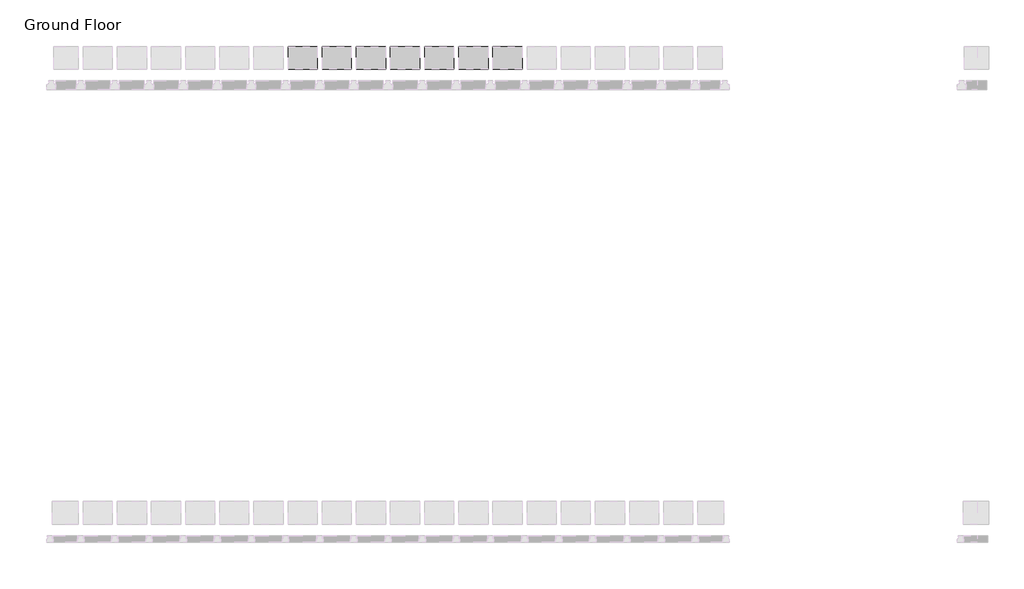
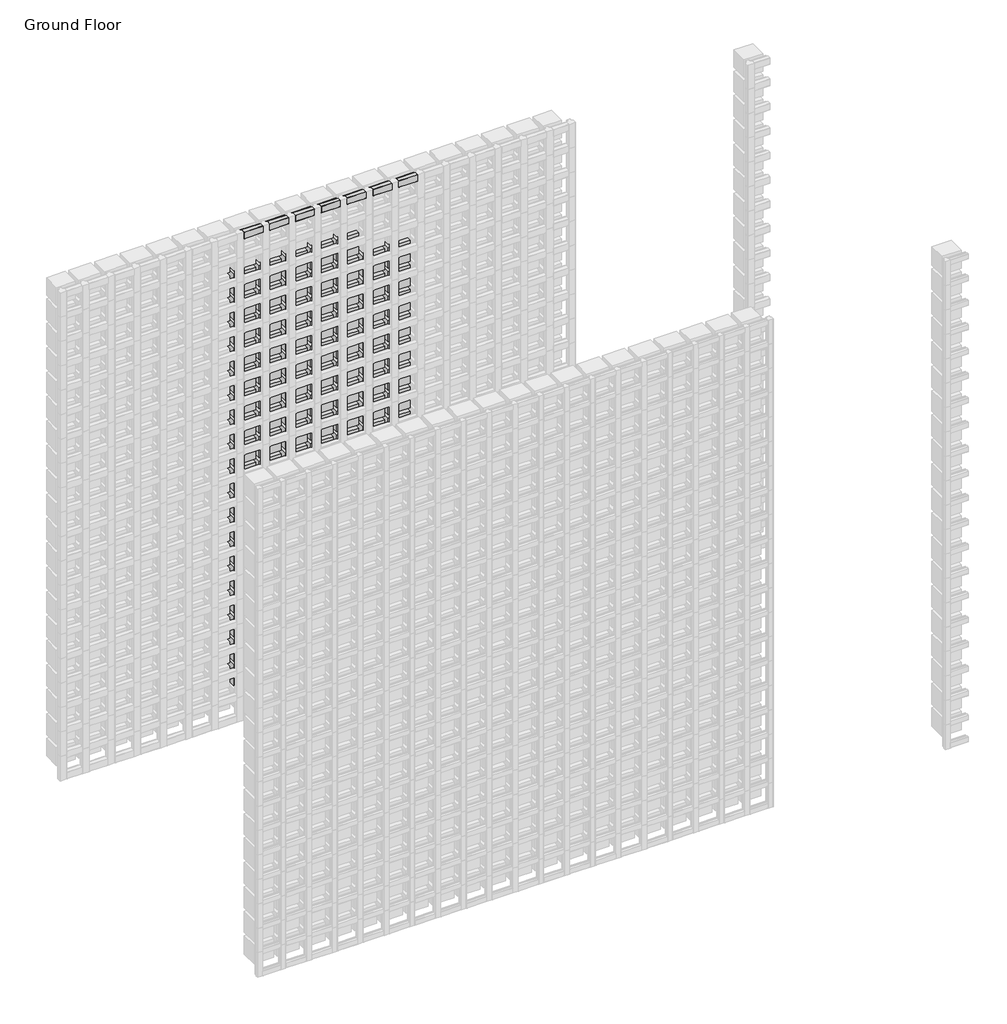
# One storey, part 112 of 350: 120 plates, 19 members.
"""IFC4 building model written with IfcOpenShell, lengths in millimetres."""

from ifc_helpers import new_model, si_unit, origin, place, context, project, spatial, transform, mapped, element, save
from components import rectangular_mullion_84e0df2e, rectangular_mullion_dacc5c26, rectangular_mullion_71680797, empty_system_panel_empty_5a3607ba, empty_system_panel_empty_5e80e148

model = new_model("IFC4")

# Units and contexts
model_context = context("Model", 3, world=origin())
ifc_project = project(units=[si_unit("LENGTHUNIT", "METRE", prefix="MILLI")], contexts=[model_context])

# Site, building, storey
site = spatial("IfcSite", under=ifc_project)
building = spatial("IfcBuilding", under=site)
storey = spatial("IfcBuildingStorey", under=building, Name="Ground Floor", Elevation=0.0)

# Members
placement = place(None, origin())
rectangular_mullion_shape = rectangular_mullion_84e0df2e(model_context)
element("IfcMember", 1, ObjectType="Rectangular Mullion : Batten_Timber_Modinex_Austratus_Grid_Fin_40x40_AlaskanYellowCedar", at=placement, inside=storey, context=model_context, shape_type="MappedRepresentation", body=[
    mapped(rectangular_mullion_shape, transform((3116.4361642, 44968.2978302, 0.0), x_axis=(1.0, 0.0, 0.0), y_axis=(0.0, -1.0, 0.0), z_axis=(0.0, 0.0, -1.0))),
])
element("IfcMember", 2, ObjectType="Rectangular Mullion : Batten_Timber_Modinex_Austratus_Grid_Fin_40x40_AlaskanYellowCedar", at=placement, inside=storey, context=model_context, shape_type="MappedRepresentation", body=[
    mapped(rectangular_mullion_shape, transform((3266.4361642, 44968.2978302, 0.0), x_axis=(1.0, 0.0, 0.0), y_axis=(0.0, -1.0, 0.0), z_axis=(0.0, 0.0, -1.0))),
])
element("IfcMember", 3, ObjectType="Rectangular Mullion : Batten_Timber_Modinex_Austratus_Grid_Fin_40x40_AlaskanYellowCedar", at=placement, inside=storey, context=model_context, shape_type="MappedRepresentation", body=[
    mapped(rectangular_mullion_shape, transform((3416.4361642, 44968.2978302, 0.0), x_axis=(1.0, 0.0, 0.0), y_axis=(0.0, -1.0, 0.0), z_axis=(0.0, 0.0, -1.0))),
])
element("IfcMember", 4, ObjectType="Rectangular Mullion : Batten_Timber_Modinex_Austratus_Grid_Fin_40x40_AlaskanYellowCedar", at=placement, inside=storey, context=model_context, shape_type="MappedRepresentation", body=[
    mapped(rectangular_mullion_shape, transform((3566.4361642, 44968.2978302, 0.0), x_axis=(1.0, 0.0, 0.0), y_axis=(0.0, -1.0, 0.0), z_axis=(0.0, 0.0, -1.0))),
])
element("IfcMember", 5, ObjectType="Rectangular Mullion : Batten_Timber_Modinex_Austratus_Grid_Fin_40x40_AlaskanYellowCedar", at=placement, inside=storey, context=model_context, shape_type="MappedRepresentation", body=[
    mapped(rectangular_mullion_shape, transform((3716.4361642, 44968.2978302, 0.0), x_axis=(1.0, 0.0, 0.0), y_axis=(0.0, -1.0, 0.0), z_axis=(0.0, 0.0, -1.0))),
])
element("IfcMember", 6, ObjectType="Rectangular Mullion : Batten_Timber_Modinex_Austratus_Grid_Fin_40x40_AlaskanYellowCedar", at=placement, inside=storey, context=model_context, shape_type="MappedRepresentation", body=[
    mapped(rectangular_mullion_shape, transform((3866.4361642, 44968.2978302, 0.0), x_axis=(1.0, 0.0, 0.0), y_axis=(0.0, -1.0, 0.0), z_axis=(0.0, 0.0, -1.0))),
])
rectangular_mullion_2_shape = rectangular_mullion_dacc5c26(model_context)
element("IfcMember", 7, ObjectType="Rectangular Mullion : Batten_Timber_Modinex_Austratus_Grid_Fin_40x40_AlaskanYellowCedar", at=placement, inside=storey, context=model_context, shape_type="MappedRepresentation", body=[
    mapped(rectangular_mullion_2_shape, transform((3096.4361642, 44968.2978302, 3000.0), x_axis=(0.0, 0.0, 1.0), y_axis=(0.0, -1.0, 0.0), z_axis=(1.0, 0.0, 0.0))),
])
element("IfcMember", 8, ObjectType="Rectangular Mullion : Batten_Timber_Modinex_Austratus_Grid_Fin_40x40_AlaskanYellowCedar", at=placement, inside=storey, context=model_context, shape_type="MappedRepresentation", body=[
    mapped(rectangular_mullion_2_shape, transform((3246.4361642, 44968.2978302, 3000.0), x_axis=(0.0, 0.0, 1.0), y_axis=(0.0, -1.0, 0.0), z_axis=(1.0, 0.0, 0.0))),
])
element("IfcMember", 9, ObjectType="Rectangular Mullion : Batten_Timber_Modinex_Austratus_Grid_Fin_40x40_AlaskanYellowCedar", at=placement, inside=storey, context=model_context, shape_type="MappedRepresentation", body=[
    mapped(rectangular_mullion_2_shape, transform((3396.4361642, 44968.2978302, 3000.0), x_axis=(0.0, 0.0, 1.0), y_axis=(0.0, -1.0, 0.0), z_axis=(1.0, 0.0, 0.0))),
])
element("IfcMember", 10, ObjectType="Rectangular Mullion : Batten_Timber_Modinex_Austratus_Grid_Fin_40x40_AlaskanYellowCedar", at=placement, inside=storey, context=model_context, shape_type="MappedRepresentation", body=[
    mapped(rectangular_mullion_2_shape, transform((3546.4361642, 44968.2978302, 3000.0), x_axis=(0.0, 0.0, 1.0), y_axis=(0.0, -1.0, 0.0), z_axis=(1.0, 0.0, 0.0))),
])
element("IfcMember", 11, ObjectType="Rectangular Mullion : Batten_Timber_Modinex_Austratus_Grid_Fin_40x40_AlaskanYellowCedar", at=placement, inside=storey, context=model_context, shape_type="MappedRepresentation", body=[
    mapped(rectangular_mullion_2_shape, transform((3696.4361642, 44968.2978302, 3000.0), x_axis=(0.0, 0.0, 1.0), y_axis=(0.0, -1.0, 0.0), z_axis=(1.0, 0.0, 0.0))),
])
element("IfcMember", 12, ObjectType="Rectangular Mullion : Batten_Timber_Modinex_Austratus_Grid_Fin_40x40_AlaskanYellowCedar", at=placement, inside=storey, context=model_context, shape_type="MappedRepresentation", body=[
    mapped(rectangular_mullion_2_shape, transform((3846.4361642, 44968.2978302, 3000.0), x_axis=(0.0, 0.0, 1.0), y_axis=(0.0, -1.0, 0.0), z_axis=(1.0, 0.0, 0.0))),
])
element("IfcMember", 13, ObjectType="Rectangular Mullion : Batten_Timber_Modinex_Austratus_Grid_Fin_40x40_AlaskanYellowCedar", at=placement, inside=storey, context=model_context, shape_type="MappedRepresentation", body=[
    mapped(rectangular_mullion_2_shape, transform((3996.4361642, 44968.2978302, 3000.0), x_axis=(0.0, 0.0, 1.0), y_axis=(0.0, -1.0, 0.0), z_axis=(1.0, 0.0, 0.0))),
])
rectangular_mullion_3_shape = rectangular_mullion_71680797(model_context)
element("IfcMember", 14, ObjectType="Rectangular Mullion : Batten_Timber_Modinex_Austratus_Grid_Fin_40x40_AlaskanYellowCedar", at=placement, inside=storey, context=model_context, shape_type="MappedRepresentation", body=[
    mapped(rectangular_mullion_3_shape, transform((3136.4361642, 44968.2978302, 0.0), x_axis=(0.0, 0.0, -1.0), y_axis=(0.0, -1.0, 0.0), z_axis=(-1.0, 0.0, 0.0))),
])
element("IfcMember", 15, ObjectType="Rectangular Mullion : Batten_Timber_Modinex_Austratus_Grid_Fin_40x40_AlaskanYellowCedar", at=placement, inside=storey, context=model_context, shape_type="MappedRepresentation", body=[
    mapped(rectangular_mullion_3_shape, transform((3286.4361642, 44968.2978302, 0.0), x_axis=(0.0, 0.0, -1.0), y_axis=(0.0, -1.0, 0.0), z_axis=(-1.0, 0.0, 0.0))),
])
element("IfcMember", 16, ObjectType="Rectangular Mullion : Batten_Timber_Modinex_Austratus_Grid_Fin_40x40_AlaskanYellowCedar", at=placement, inside=storey, context=model_context, shape_type="MappedRepresentation", body=[
    mapped(rectangular_mullion_3_shape, transform((3436.4361642, 44968.2978302, 0.0), x_axis=(0.0, 0.0, -1.0), y_axis=(0.0, -1.0, 0.0), z_axis=(-1.0, 0.0, 0.0))),
])
element("IfcMember", 17, ObjectType="Rectangular Mullion : Batten_Timber_Modinex_Austratus_Grid_Fin_40x40_AlaskanYellowCedar", at=placement, inside=storey, context=model_context, shape_type="MappedRepresentation", body=[
    mapped(rectangular_mullion_3_shape, transform((3586.4361642, 44968.2978302, 0.0), x_axis=(0.0, 0.0, -1.0), y_axis=(0.0, -1.0, 0.0), z_axis=(-1.0, 0.0, 0.0))),
])
element("IfcMember", 18, ObjectType="Rectangular Mullion : Batten_Timber_Modinex_Austratus_Grid_Fin_40x40_AlaskanYellowCedar", at=placement, inside=storey, context=model_context, shape_type="MappedRepresentation", body=[
    mapped(rectangular_mullion_3_shape, transform((3736.4361642, 44968.2978302, 0.0), x_axis=(0.0, 0.0, -1.0), y_axis=(0.0, -1.0, 0.0), z_axis=(-1.0, 0.0, 0.0))),
])
element("IfcMember", 19, ObjectType="Rectangular Mullion : Batten_Timber_Modinex_Austratus_Grid_Fin_40x40_AlaskanYellowCedar", at=placement, inside=storey, context=model_context, shape_type="MappedRepresentation", body=[
    mapped(rectangular_mullion_3_shape, transform((3886.4361642, 44968.2978302, 0.0), x_axis=(0.0, 0.0, -1.0), y_axis=(0.0, -1.0, 0.0), z_axis=(-1.0, 0.0, 0.0))),
])

# Plates
empty_system_panel_empty_shape = empty_system_panel_empty_5a3607ba(model_context)
element("IfcPlate", 20, ObjectType="Empty System Panel : Empty", at=placement, inside=storey, context=model_context, shape_type="MappedRepresentation", body=[
    mapped(empty_system_panel_empty_shape, transform((3041.4361642, 44968.2978302, 160.812195), x_axis=(1.0, 0.0, 0.0), y_axis=(0.0, 1.0, 0.0), z_axis=(0.0, 0.0, 1.0))),
])
element("IfcPlate", 21, ObjectType="Empty System Panel : Empty", at=placement, inside=storey, context=model_context, shape_type="MappedRepresentation", body=[
    mapped(empty_system_panel_empty_shape, transform((3191.4361642, 44968.2978302, 160.812195), x_axis=(1.0, 0.0, 0.0), y_axis=(0.0, 1.0, 0.0), z_axis=(0.0, 0.0, 1.0))),
])
element("IfcPlate", 22, ObjectType="Empty System Panel : Empty", at=placement, inside=storey, context=model_context, shape_type="MappedRepresentation", body=[
    mapped(empty_system_panel_empty_shape, transform((3341.4361642, 44968.2978302, 160.812195), x_axis=(1.0, 0.0, 0.0), y_axis=(0.0, 1.0, 0.0), z_axis=(0.0, 0.0, 1.0))),
])
element("IfcPlate", 23, ObjectType="Empty System Panel : Empty", at=placement, inside=storey, context=model_context, shape_type="MappedRepresentation", body=[
    mapped(empty_system_panel_empty_shape, transform((3491.4361642, 44968.2978302, 160.812195), x_axis=(1.0, 0.0, 0.0), y_axis=(0.0, 1.0, 0.0), z_axis=(0.0, 0.0, 1.0))),
])
element("IfcPlate", 24, ObjectType="Empty System Panel : Empty", at=placement, inside=storey, context=model_context, shape_type="MappedRepresentation", body=[
    mapped(empty_system_panel_empty_shape, transform((3641.4361642, 44968.2978302, 160.812195), x_axis=(1.0, 0.0, 0.0), y_axis=(0.0, 1.0, 0.0), z_axis=(0.0, 0.0, 1.0))),
])
element("IfcPlate", 25, ObjectType="Empty System Panel : Empty", at=placement, inside=storey, context=model_context, shape_type="MappedRepresentation", body=[
    mapped(empty_system_panel_empty_shape, transform((3791.4361642, 44968.2978302, 160.812195), x_axis=(1.0, 0.0, 0.0), y_axis=(0.0, 1.0, 0.0), z_axis=(0.0, 0.0, 1.0))),
])
element("IfcPlate", 26, ObjectType="Empty System Panel : Empty", at=placement, inside=storey, context=model_context, shape_type="MappedRepresentation", body=[
    mapped(empty_system_panel_empty_shape, transform((3941.4361642, 44968.2978302, 160.812195), x_axis=(1.0, 0.0, 0.0), y_axis=(0.0, 1.0, 0.0), z_axis=(0.0, 0.0, 1.0))),
])
element("IfcPlate", 27, ObjectType="Empty System Panel : Empty", at=placement, inside=storey, context=model_context, shape_type="MappedRepresentation", body=[
    mapped(empty_system_panel_empty_shape, transform((3041.4361642, 44968.2978302, 310.812195), x_axis=(1.0, 0.0, 0.0), y_axis=(0.0, 1.0, 0.0), z_axis=(0.0, 0.0, 1.0))),
])
element("IfcPlate", 28, ObjectType="Empty System Panel : Empty", at=placement, inside=storey, context=model_context, shape_type="MappedRepresentation", body=[
    mapped(empty_system_panel_empty_shape, transform((3191.4361642, 44968.2978302, 310.812195), x_axis=(1.0, 0.0, 0.0), y_axis=(0.0, 1.0, 0.0), z_axis=(0.0, 0.0, 1.0))),
])
element("IfcPlate", 29, ObjectType="Empty System Panel : Empty", at=placement, inside=storey, context=model_context, shape_type="MappedRepresentation", body=[
    mapped(empty_system_panel_empty_shape, transform((3341.4361642, 44968.2978302, 310.812195), x_axis=(1.0, 0.0, 0.0), y_axis=(0.0, 1.0, 0.0), z_axis=(0.0, 0.0, 1.0))),
])
element("IfcPlate", 30, ObjectType="Empty System Panel : Empty", at=placement, inside=storey, context=model_context, shape_type="MappedRepresentation", body=[
    mapped(empty_system_panel_empty_shape, transform((3491.4361642, 44968.2978302, 310.812195), x_axis=(1.0, 0.0, 0.0), y_axis=(0.0, 1.0, 0.0), z_axis=(0.0, 0.0, 1.0))),
])
element("IfcPlate", 31, ObjectType="Empty System Panel : Empty", at=placement, inside=storey, context=model_context, shape_type="MappedRepresentation", body=[
    mapped(empty_system_panel_empty_shape, transform((3641.4361642, 44968.2978302, 310.812195), x_axis=(1.0, 0.0, 0.0), y_axis=(0.0, 1.0, 0.0), z_axis=(0.0, 0.0, 1.0))),
])
element("IfcPlate", 32, ObjectType="Empty System Panel : Empty", at=placement, inside=storey, context=model_context, shape_type="MappedRepresentation", body=[
    mapped(empty_system_panel_empty_shape, transform((3791.4361642, 44968.2978302, 310.812195), x_axis=(1.0, 0.0, 0.0), y_axis=(0.0, 1.0, 0.0), z_axis=(0.0, 0.0, 1.0))),
])
element("IfcPlate", 33, ObjectType="Empty System Panel : Empty", at=placement, inside=storey, context=model_context, shape_type="MappedRepresentation", body=[
    mapped(empty_system_panel_empty_shape, transform((3941.4361642, 44968.2978302, 310.812195), x_axis=(1.0, 0.0, 0.0), y_axis=(0.0, 1.0, 0.0), z_axis=(0.0, 0.0, 1.0))),
])
element("IfcPlate", 34, ObjectType="Empty System Panel : Empty", at=placement, inside=storey, context=model_context, shape_type="MappedRepresentation", body=[
    mapped(empty_system_panel_empty_shape, transform((3041.4361642, 44968.2978302, 460.812195), x_axis=(1.0, 0.0, 0.0), y_axis=(0.0, 1.0, 0.0), z_axis=(0.0, 0.0, 1.0))),
])
element("IfcPlate", 35, ObjectType="Empty System Panel : Empty", at=placement, inside=storey, context=model_context, shape_type="MappedRepresentation", body=[
    mapped(empty_system_panel_empty_shape, transform((3191.4361642, 44968.2978302, 460.812195), x_axis=(1.0, 0.0, 0.0), y_axis=(0.0, 1.0, 0.0), z_axis=(0.0, 0.0, 1.0))),
])
element("IfcPlate", 36, ObjectType="Empty System Panel : Empty", at=placement, inside=storey, context=model_context, shape_type="MappedRepresentation", body=[
    mapped(empty_system_panel_empty_shape, transform((3341.4361642, 44968.2978302, 460.812195), x_axis=(1.0, 0.0, 0.0), y_axis=(0.0, 1.0, 0.0), z_axis=(0.0, 0.0, 1.0))),
])
element("IfcPlate", 37, ObjectType="Empty System Panel : Empty", at=placement, inside=storey, context=model_context, shape_type="MappedRepresentation", body=[
    mapped(empty_system_panel_empty_shape, transform((3491.4361642, 44968.2978302, 460.812195), x_axis=(1.0, 0.0, 0.0), y_axis=(0.0, 1.0, 0.0), z_axis=(0.0, 0.0, 1.0))),
])
element("IfcPlate", 38, ObjectType="Empty System Panel : Empty", at=placement, inside=storey, context=model_context, shape_type="MappedRepresentation", body=[
    mapped(empty_system_panel_empty_shape, transform((3641.4361642, 44968.2978302, 460.812195), x_axis=(1.0, 0.0, 0.0), y_axis=(0.0, 1.0, 0.0), z_axis=(0.0, 0.0, 1.0))),
])
element("IfcPlate", 39, ObjectType="Empty System Panel : Empty", at=placement, inside=storey, context=model_context, shape_type="MappedRepresentation", body=[
    mapped(empty_system_panel_empty_shape, transform((3791.4361642, 44968.2978302, 460.812195), x_axis=(1.0, 0.0, 0.0), y_axis=(0.0, 1.0, 0.0), z_axis=(0.0, 0.0, 1.0))),
])
element("IfcPlate", 40, ObjectType="Empty System Panel : Empty", at=placement, inside=storey, context=model_context, shape_type="MappedRepresentation", body=[
    mapped(empty_system_panel_empty_shape, transform((3941.4361642, 44968.2978302, 460.812195), x_axis=(1.0, 0.0, 0.0), y_axis=(0.0, 1.0, 0.0), z_axis=(0.0, 0.0, 1.0))),
])
element("IfcPlate", 41, ObjectType="Empty System Panel : Empty", at=placement, inside=storey, context=model_context, shape_type="MappedRepresentation", body=[
    mapped(empty_system_panel_empty_shape, transform((3041.4361642, 44968.2978302, 610.812195), x_axis=(1.0, 0.0, 0.0), y_axis=(0.0, 1.0, 0.0), z_axis=(0.0, 0.0, 1.0))),
])
element("IfcPlate", 42, ObjectType="Empty System Panel : Empty", at=placement, inside=storey, context=model_context, shape_type="MappedRepresentation", body=[
    mapped(empty_system_panel_empty_shape, transform((3191.4361642, 44968.2978302, 610.812195), x_axis=(1.0, 0.0, 0.0), y_axis=(0.0, 1.0, 0.0), z_axis=(0.0, 0.0, 1.0))),
])
element("IfcPlate", 43, ObjectType="Empty System Panel : Empty", at=placement, inside=storey, context=model_context, shape_type="MappedRepresentation", body=[
    mapped(empty_system_panel_empty_shape, transform((3341.4361642, 44968.2978302, 610.812195), x_axis=(1.0, 0.0, 0.0), y_axis=(0.0, 1.0, 0.0), z_axis=(0.0, 0.0, 1.0))),
])
element("IfcPlate", 44, ObjectType="Empty System Panel : Empty", at=placement, inside=storey, context=model_context, shape_type="MappedRepresentation", body=[
    mapped(empty_system_panel_empty_shape, transform((3491.4361642, 44968.2978302, 610.812195), x_axis=(1.0, 0.0, 0.0), y_axis=(0.0, 1.0, 0.0), z_axis=(0.0, 0.0, 1.0))),
])
element("IfcPlate", 45, ObjectType="Empty System Panel : Empty", at=placement, inside=storey, context=model_context, shape_type="MappedRepresentation", body=[
    mapped(empty_system_panel_empty_shape, transform((3641.4361642, 44968.2978302, 610.812195), x_axis=(1.0, 0.0, 0.0), y_axis=(0.0, 1.0, 0.0), z_axis=(0.0, 0.0, 1.0))),
])
element("IfcPlate", 46, ObjectType="Empty System Panel : Empty", at=placement, inside=storey, context=model_context, shape_type="MappedRepresentation", body=[
    mapped(empty_system_panel_empty_shape, transform((3791.4361642, 44968.2978302, 610.812195), x_axis=(1.0, 0.0, 0.0), y_axis=(0.0, 1.0, 0.0), z_axis=(0.0, 0.0, 1.0))),
])
element("IfcPlate", 47, ObjectType="Empty System Panel : Empty", at=placement, inside=storey, context=model_context, shape_type="MappedRepresentation", body=[
    mapped(empty_system_panel_empty_shape, transform((3941.4361642, 44968.2978302, 610.812195), x_axis=(1.0, 0.0, 0.0), y_axis=(0.0, 1.0, 0.0), z_axis=(0.0, 0.0, 1.0))),
])
element("IfcPlate", 48, ObjectType="Empty System Panel : Empty", at=placement, inside=storey, context=model_context, shape_type="MappedRepresentation", body=[
    mapped(empty_system_panel_empty_shape, transform((3041.4361642, 44968.2978302, 760.812195), x_axis=(1.0, 0.0, 0.0), y_axis=(0.0, 1.0, 0.0), z_axis=(0.0, 0.0, 1.0))),
])
element("IfcPlate", 49, ObjectType="Empty System Panel : Empty", at=placement, inside=storey, context=model_context, shape_type="MappedRepresentation", body=[
    mapped(empty_system_panel_empty_shape, transform((3191.4361642, 44968.2978302, 760.812195), x_axis=(1.0, 0.0, 0.0), y_axis=(0.0, 1.0, 0.0), z_axis=(0.0, 0.0, 1.0))),
])
element("IfcPlate", 50, ObjectType="Empty System Panel : Empty", at=placement, inside=storey, context=model_context, shape_type="MappedRepresentation", body=[
    mapped(empty_system_panel_empty_shape, transform((3341.4361642, 44968.2978302, 760.812195), x_axis=(1.0, 0.0, 0.0), y_axis=(0.0, 1.0, 0.0), z_axis=(0.0, 0.0, 1.0))),
])
element("IfcPlate", 51, ObjectType="Empty System Panel : Empty", at=placement, inside=storey, context=model_context, shape_type="MappedRepresentation", body=[
    mapped(empty_system_panel_empty_shape, transform((3491.4361642, 44968.2978302, 760.812195), x_axis=(1.0, 0.0, 0.0), y_axis=(0.0, 1.0, 0.0), z_axis=(0.0, 0.0, 1.0))),
])
element("IfcPlate", 52, ObjectType="Empty System Panel : Empty", at=placement, inside=storey, context=model_context, shape_type="MappedRepresentation", body=[
    mapped(empty_system_panel_empty_shape, transform((3641.4361642, 44968.2978302, 760.812195), x_axis=(1.0, 0.0, 0.0), y_axis=(0.0, 1.0, 0.0), z_axis=(0.0, 0.0, 1.0))),
])
element("IfcPlate", 53, ObjectType="Empty System Panel : Empty", at=placement, inside=storey, context=model_context, shape_type="MappedRepresentation", body=[
    mapped(empty_system_panel_empty_shape, transform((3791.4361642, 44968.2978302, 760.812195), x_axis=(1.0, 0.0, 0.0), y_axis=(0.0, 1.0, 0.0), z_axis=(0.0, 0.0, 1.0))),
])
element("IfcPlate", 54, ObjectType="Empty System Panel : Empty", at=placement, inside=storey, context=model_context, shape_type="MappedRepresentation", body=[
    mapped(empty_system_panel_empty_shape, transform((3941.4361642, 44968.2978302, 760.812195), x_axis=(1.0, 0.0, 0.0), y_axis=(0.0, 1.0, 0.0), z_axis=(0.0, 0.0, 1.0))),
])
element("IfcPlate", 55, ObjectType="Empty System Panel : Empty", at=placement, inside=storey, context=model_context, shape_type="MappedRepresentation", body=[
    mapped(empty_system_panel_empty_shape, transform((3041.4361642, 44968.2978302, 910.812195), x_axis=(1.0, 0.0, 0.0), y_axis=(0.0, 1.0, 0.0), z_axis=(0.0, 0.0, 1.0))),
])
element("IfcPlate", 56, ObjectType="Empty System Panel : Empty", at=placement, inside=storey, context=model_context, shape_type="MappedRepresentation", body=[
    mapped(empty_system_panel_empty_shape, transform((3191.4361642, 44968.2978302, 910.812195), x_axis=(1.0, 0.0, 0.0), y_axis=(0.0, 1.0, 0.0), z_axis=(0.0, 0.0, 1.0))),
])
element("IfcPlate", 57, ObjectType="Empty System Panel : Empty", at=placement, inside=storey, context=model_context, shape_type="MappedRepresentation", body=[
    mapped(empty_system_panel_empty_shape, transform((3341.4361642, 44968.2978302, 910.812195), x_axis=(1.0, 0.0, 0.0), y_axis=(0.0, 1.0, 0.0), z_axis=(0.0, 0.0, 1.0))),
])
element("IfcPlate", 58, ObjectType="Empty System Panel : Empty", at=placement, inside=storey, context=model_context, shape_type="MappedRepresentation", body=[
    mapped(empty_system_panel_empty_shape, transform((3491.4361642, 44968.2978302, 910.812195), x_axis=(1.0, 0.0, 0.0), y_axis=(0.0, 1.0, 0.0), z_axis=(0.0, 0.0, 1.0))),
])
element("IfcPlate", 59, ObjectType="Empty System Panel : Empty", at=placement, inside=storey, context=model_context, shape_type="MappedRepresentation", body=[
    mapped(empty_system_panel_empty_shape, transform((3641.4361642, 44968.2978302, 910.812195), x_axis=(1.0, 0.0, 0.0), y_axis=(0.0, 1.0, 0.0), z_axis=(0.0, 0.0, 1.0))),
])
element("IfcPlate", 60, ObjectType="Empty System Panel : Empty", at=placement, inside=storey, context=model_context, shape_type="MappedRepresentation", body=[
    mapped(empty_system_panel_empty_shape, transform((3791.4361642, 44968.2978302, 910.812195), x_axis=(1.0, 0.0, 0.0), y_axis=(0.0, 1.0, 0.0), z_axis=(0.0, 0.0, 1.0))),
])
element("IfcPlate", 61, ObjectType="Empty System Panel : Empty", at=placement, inside=storey, context=model_context, shape_type="MappedRepresentation", body=[
    mapped(empty_system_panel_empty_shape, transform((3941.4361642, 44968.2978302, 910.812195), x_axis=(1.0, 0.0, 0.0), y_axis=(0.0, 1.0, 0.0), z_axis=(0.0, 0.0, 1.0))),
])
element("IfcPlate", 62, ObjectType="Empty System Panel : Empty", at=placement, inside=storey, context=model_context, shape_type="MappedRepresentation", body=[
    mapped(empty_system_panel_empty_shape, transform((3041.4361642, 44968.2978302, 1060.812195), x_axis=(1.0, 0.0, 0.0), y_axis=(0.0, 1.0, 0.0), z_axis=(0.0, 0.0, 1.0))),
])
element("IfcPlate", 63, ObjectType="Empty System Panel : Empty", at=placement, inside=storey, context=model_context, shape_type="MappedRepresentation", body=[
    mapped(empty_system_panel_empty_shape, transform((3191.4361642, 44968.2978302, 1060.812195), x_axis=(1.0, 0.0, 0.0), y_axis=(0.0, 1.0, 0.0), z_axis=(0.0, 0.0, 1.0))),
])
element("IfcPlate", 64, ObjectType="Empty System Panel : Empty", at=placement, inside=storey, context=model_context, shape_type="MappedRepresentation", body=[
    mapped(empty_system_panel_empty_shape, transform((3341.4361642, 44968.2978302, 1060.812195), x_axis=(1.0, 0.0, 0.0), y_axis=(0.0, 1.0, 0.0), z_axis=(0.0, 0.0, 1.0))),
])
element("IfcPlate", 65, ObjectType="Empty System Panel : Empty", at=placement, inside=storey, context=model_context, shape_type="MappedRepresentation", body=[
    mapped(empty_system_panel_empty_shape, transform((3491.4361642, 44968.2978302, 1060.812195), x_axis=(1.0, 0.0, 0.0), y_axis=(0.0, 1.0, 0.0), z_axis=(0.0, 0.0, 1.0))),
])
element("IfcPlate", 66, ObjectType="Empty System Panel : Empty", at=placement, inside=storey, context=model_context, shape_type="MappedRepresentation", body=[
    mapped(empty_system_panel_empty_shape, transform((3641.4361642, 44968.2978302, 1060.812195), x_axis=(1.0, 0.0, 0.0), y_axis=(0.0, 1.0, 0.0), z_axis=(0.0, 0.0, 1.0))),
])
element("IfcPlate", 67, ObjectType="Empty System Panel : Empty", at=placement, inside=storey, context=model_context, shape_type="MappedRepresentation", body=[
    mapped(empty_system_panel_empty_shape, transform((3791.4361642, 44968.2978302, 1060.812195), x_axis=(1.0, 0.0, 0.0), y_axis=(0.0, 1.0, 0.0), z_axis=(0.0, 0.0, 1.0))),
])
element("IfcPlate", 68, ObjectType="Empty System Panel : Empty", at=placement, inside=storey, context=model_context, shape_type="MappedRepresentation", body=[
    mapped(empty_system_panel_empty_shape, transform((3941.4361642, 44968.2978302, 1060.812195), x_axis=(1.0, 0.0, 0.0), y_axis=(0.0, 1.0, 0.0), z_axis=(0.0, 0.0, 1.0))),
])
element("IfcPlate", 69, ObjectType="Empty System Panel : Empty", at=placement, inside=storey, context=model_context, shape_type="MappedRepresentation", body=[
    mapped(empty_system_panel_empty_shape, transform((3041.4361642, 44968.2978302, 1210.812195), x_axis=(1.0, 0.0, 0.0), y_axis=(0.0, 1.0, 0.0), z_axis=(0.0, 0.0, 1.0))),
])
element("IfcPlate", 70, ObjectType="Empty System Panel : Empty", at=placement, inside=storey, context=model_context, shape_type="MappedRepresentation", body=[
    mapped(empty_system_panel_empty_shape, transform((3191.4361642, 44968.2978302, 1210.812195), x_axis=(1.0, 0.0, 0.0), y_axis=(0.0, 1.0, 0.0), z_axis=(0.0, 0.0, 1.0))),
])
element("IfcPlate", 71, ObjectType="Empty System Panel : Empty", at=placement, inside=storey, context=model_context, shape_type="MappedRepresentation", body=[
    mapped(empty_system_panel_empty_shape, transform((3341.4361642, 44968.2978302, 1210.812195), x_axis=(1.0, 0.0, 0.0), y_axis=(0.0, 1.0, 0.0), z_axis=(0.0, 0.0, 1.0))),
])
element("IfcPlate", 72, ObjectType="Empty System Panel : Empty", at=placement, inside=storey, context=model_context, shape_type="MappedRepresentation", body=[
    mapped(empty_system_panel_empty_shape, transform((3491.4361642, 44968.2978302, 1210.812195), x_axis=(1.0, 0.0, 0.0), y_axis=(0.0, 1.0, 0.0), z_axis=(0.0, 0.0, 1.0))),
])
element("IfcPlate", 73, ObjectType="Empty System Panel : Empty", at=placement, inside=storey, context=model_context, shape_type="MappedRepresentation", body=[
    mapped(empty_system_panel_empty_shape, transform((3641.4361642, 44968.2978302, 1210.812195), x_axis=(1.0, 0.0, 0.0), y_axis=(0.0, 1.0, 0.0), z_axis=(0.0, 0.0, 1.0))),
])
element("IfcPlate", 74, ObjectType="Empty System Panel : Empty", at=placement, inside=storey, context=model_context, shape_type="MappedRepresentation", body=[
    mapped(empty_system_panel_empty_shape, transform((3791.4361642, 44968.2978302, 1210.812195), x_axis=(1.0, 0.0, 0.0), y_axis=(0.0, 1.0, 0.0), z_axis=(0.0, 0.0, 1.0))),
])
element("IfcPlate", 75, ObjectType="Empty System Panel : Empty", at=placement, inside=storey, context=model_context, shape_type="MappedRepresentation", body=[
    mapped(empty_system_panel_empty_shape, transform((3941.4361642, 44968.2978302, 1210.812195), x_axis=(1.0, 0.0, 0.0), y_axis=(0.0, 1.0, 0.0), z_axis=(0.0, 0.0, 1.0))),
])
element("IfcPlate", 76, ObjectType="Empty System Panel : Empty", at=placement, inside=storey, context=model_context, shape_type="MappedRepresentation", body=[
    mapped(empty_system_panel_empty_shape, transform((3041.4361642, 44968.2978302, 1360.812195), x_axis=(1.0, 0.0, 0.0), y_axis=(0.0, 1.0, 0.0), z_axis=(0.0, 0.0, 1.0))),
])
element("IfcPlate", 77, ObjectType="Empty System Panel : Empty", at=placement, inside=storey, context=model_context, shape_type="MappedRepresentation", body=[
    mapped(empty_system_panel_empty_shape, transform((3191.4361642, 44968.2978302, 1360.812195), x_axis=(1.0, 0.0, 0.0), y_axis=(0.0, 1.0, 0.0), z_axis=(0.0, 0.0, 1.0))),
])
element("IfcPlate", 78, ObjectType="Empty System Panel : Empty", at=placement, inside=storey, context=model_context, shape_type="MappedRepresentation", body=[
    mapped(empty_system_panel_empty_shape, transform((3341.4361642, 44968.2978302, 1360.812195), x_axis=(1.0, 0.0, 0.0), y_axis=(0.0, 1.0, 0.0), z_axis=(0.0, 0.0, 1.0))),
])
element("IfcPlate", 79, ObjectType="Empty System Panel : Empty", at=placement, inside=storey, context=model_context, shape_type="MappedRepresentation", body=[
    mapped(empty_system_panel_empty_shape, transform((3491.4361642, 44968.2978302, 1360.812195), x_axis=(1.0, 0.0, 0.0), y_axis=(0.0, 1.0, 0.0), z_axis=(0.0, 0.0, 1.0))),
])
element("IfcPlate", 80, ObjectType="Empty System Panel : Empty", at=placement, inside=storey, context=model_context, shape_type="MappedRepresentation", body=[
    mapped(empty_system_panel_empty_shape, transform((3641.4361642, 44968.2978302, 1360.812195), x_axis=(1.0, 0.0, 0.0), y_axis=(0.0, 1.0, 0.0), z_axis=(0.0, 0.0, 1.0))),
])
element("IfcPlate", 81, ObjectType="Empty System Panel : Empty", at=placement, inside=storey, context=model_context, shape_type="MappedRepresentation", body=[
    mapped(empty_system_panel_empty_shape, transform((3791.4361642, 44968.2978302, 1360.812195), x_axis=(1.0, 0.0, 0.0), y_axis=(0.0, 1.0, 0.0), z_axis=(0.0, 0.0, 1.0))),
])
element("IfcPlate", 82, ObjectType="Empty System Panel : Empty", at=placement, inside=storey, context=model_context, shape_type="MappedRepresentation", body=[
    mapped(empty_system_panel_empty_shape, transform((3941.4361642, 44968.2978302, 1360.812195), x_axis=(1.0, 0.0, 0.0), y_axis=(0.0, 1.0, 0.0), z_axis=(0.0, 0.0, 1.0))),
])
element("IfcPlate", 83, ObjectType="Empty System Panel : Empty", at=placement, inside=storey, context=model_context, shape_type="MappedRepresentation", body=[
    mapped(empty_system_panel_empty_shape, transform((3041.4361642, 44968.2978302, 1510.812195), x_axis=(1.0, 0.0, 0.0), y_axis=(0.0, 1.0, 0.0), z_axis=(0.0, 0.0, 1.0))),
])
element("IfcPlate", 84, ObjectType="Empty System Panel : Empty", at=placement, inside=storey, context=model_context, shape_type="MappedRepresentation", body=[
    mapped(empty_system_panel_empty_shape, transform((3191.4361642, 44968.2978302, 1510.812195), x_axis=(1.0, 0.0, 0.0), y_axis=(0.0, 1.0, 0.0), z_axis=(0.0, 0.0, 1.0))),
])
element("IfcPlate", 85, ObjectType="Empty System Panel : Empty", at=placement, inside=storey, context=model_context, shape_type="MappedRepresentation", body=[
    mapped(empty_system_panel_empty_shape, transform((3341.4361642, 44968.2978302, 1510.812195), x_axis=(1.0, 0.0, 0.0), y_axis=(0.0, 1.0, 0.0), z_axis=(0.0, 0.0, 1.0))),
])
element("IfcPlate", 86, ObjectType="Empty System Panel : Empty", at=placement, inside=storey, context=model_context, shape_type="MappedRepresentation", body=[
    mapped(empty_system_panel_empty_shape, transform((3491.4361642, 44968.2978302, 1510.812195), x_axis=(1.0, 0.0, 0.0), y_axis=(0.0, 1.0, 0.0), z_axis=(0.0, 0.0, 1.0))),
])
element("IfcPlate", 87, ObjectType="Empty System Panel : Empty", at=placement, inside=storey, context=model_context, shape_type="MappedRepresentation", body=[
    mapped(empty_system_panel_empty_shape, transform((3641.4361642, 44968.2978302, 1510.812195), x_axis=(1.0, 0.0, 0.0), y_axis=(0.0, 1.0, 0.0), z_axis=(0.0, 0.0, 1.0))),
])
element("IfcPlate", 88, ObjectType="Empty System Panel : Empty", at=placement, inside=storey, context=model_context, shape_type="MappedRepresentation", body=[
    mapped(empty_system_panel_empty_shape, transform((3791.4361642, 44968.2978302, 1510.812195), x_axis=(1.0, 0.0, 0.0), y_axis=(0.0, 1.0, 0.0), z_axis=(0.0, 0.0, 1.0))),
])
element("IfcPlate", 89, ObjectType="Empty System Panel : Empty", at=placement, inside=storey, context=model_context, shape_type="MappedRepresentation", body=[
    mapped(empty_system_panel_empty_shape, transform((3941.4361642, 44968.2978302, 1510.812195), x_axis=(1.0, 0.0, 0.0), y_axis=(0.0, 1.0, 0.0), z_axis=(0.0, 0.0, 1.0))),
])
element("IfcPlate", 90, ObjectType="Empty System Panel : Empty", at=placement, inside=storey, context=model_context, shape_type="MappedRepresentation", body=[
    mapped(empty_system_panel_empty_shape, transform((3041.4361642, 44968.2978302, 1660.812195), x_axis=(1.0, 0.0, 0.0), y_axis=(0.0, 1.0, 0.0), z_axis=(0.0, 0.0, 1.0))),
])
element("IfcPlate", 91, ObjectType="Empty System Panel : Empty", at=placement, inside=storey, context=model_context, shape_type="MappedRepresentation", body=[
    mapped(empty_system_panel_empty_shape, transform((3191.4361642, 44968.2978302, 1660.812195), x_axis=(1.0, 0.0, 0.0), y_axis=(0.0, 1.0, 0.0), z_axis=(0.0, 0.0, 1.0))),
])
element("IfcPlate", 92, ObjectType="Empty System Panel : Empty", at=placement, inside=storey, context=model_context, shape_type="MappedRepresentation", body=[
    mapped(empty_system_panel_empty_shape, transform((3341.4361642, 44968.2978302, 1660.812195), x_axis=(1.0, 0.0, 0.0), y_axis=(0.0, 1.0, 0.0), z_axis=(0.0, 0.0, 1.0))),
])
element("IfcPlate", 93, ObjectType="Empty System Panel : Empty", at=placement, inside=storey, context=model_context, shape_type="MappedRepresentation", body=[
    mapped(empty_system_panel_empty_shape, transform((3491.4361642, 44968.2978302, 1660.812195), x_axis=(1.0, 0.0, 0.0), y_axis=(0.0, 1.0, 0.0), z_axis=(0.0, 0.0, 1.0))),
])
element("IfcPlate", 94, ObjectType="Empty System Panel : Empty", at=placement, inside=storey, context=model_context, shape_type="MappedRepresentation", body=[
    mapped(empty_system_panel_empty_shape, transform((3641.4361642, 44968.2978302, 1660.812195), x_axis=(1.0, 0.0, 0.0), y_axis=(0.0, 1.0, 0.0), z_axis=(0.0, 0.0, 1.0))),
])
element("IfcPlate", 95, ObjectType="Empty System Panel : Empty", at=placement, inside=storey, context=model_context, shape_type="MappedRepresentation", body=[
    mapped(empty_system_panel_empty_shape, transform((3791.4361642, 44968.2978302, 1660.812195), x_axis=(1.0, 0.0, 0.0), y_axis=(0.0, 1.0, 0.0), z_axis=(0.0, 0.0, 1.0))),
])
element("IfcPlate", 96, ObjectType="Empty System Panel : Empty", at=placement, inside=storey, context=model_context, shape_type="MappedRepresentation", body=[
    mapped(empty_system_panel_empty_shape, transform((3941.4361642, 44968.2978302, 1660.812195), x_axis=(1.0, 0.0, 0.0), y_axis=(0.0, 1.0, 0.0), z_axis=(0.0, 0.0, 1.0))),
])
element("IfcPlate", 97, ObjectType="Empty System Panel : Empty", at=placement, inside=storey, context=model_context, shape_type="MappedRepresentation", body=[
    mapped(empty_system_panel_empty_shape, transform((3041.4361642, 44968.2978302, 1810.812195), x_axis=(1.0, 0.0, 0.0), y_axis=(0.0, 1.0, 0.0), z_axis=(0.0, 0.0, 1.0))),
])
element("IfcPlate", 98, ObjectType="Empty System Panel : Empty", at=placement, inside=storey, context=model_context, shape_type="MappedRepresentation", body=[
    mapped(empty_system_panel_empty_shape, transform((3191.4361642, 44968.2978302, 1810.812195), x_axis=(1.0, 0.0, 0.0), y_axis=(0.0, 1.0, 0.0), z_axis=(0.0, 0.0, 1.0))),
])
element("IfcPlate", 99, ObjectType="Empty System Panel : Empty", at=placement, inside=storey, context=model_context, shape_type="MappedRepresentation", body=[
    mapped(empty_system_panel_empty_shape, transform((3341.4361642, 44968.2978302, 1810.812195), x_axis=(1.0, 0.0, 0.0), y_axis=(0.0, 1.0, 0.0), z_axis=(0.0, 0.0, 1.0))),
])
element("IfcPlate", 100, ObjectType="Empty System Panel : Empty", at=placement, inside=storey, context=model_context, shape_type="MappedRepresentation", body=[
    mapped(empty_system_panel_empty_shape, transform((3491.4361642, 44968.2978302, 1810.812195), x_axis=(1.0, 0.0, 0.0), y_axis=(0.0, 1.0, 0.0), z_axis=(0.0, 0.0, 1.0))),
])
element("IfcPlate", 101, ObjectType="Empty System Panel : Empty", at=placement, inside=storey, context=model_context, shape_type="MappedRepresentation", body=[
    mapped(empty_system_panel_empty_shape, transform((3641.4361642, 44968.2978302, 1810.812195), x_axis=(1.0, 0.0, 0.0), y_axis=(0.0, 1.0, 0.0), z_axis=(0.0, 0.0, 1.0))),
])
element("IfcPlate", 102, ObjectType="Empty System Panel : Empty", at=placement, inside=storey, context=model_context, shape_type="MappedRepresentation", body=[
    mapped(empty_system_panel_empty_shape, transform((3791.4361642, 44968.2978302, 1810.812195), x_axis=(1.0, 0.0, 0.0), y_axis=(0.0, 1.0, 0.0), z_axis=(0.0, 0.0, 1.0))),
])
element("IfcPlate", 103, ObjectType="Empty System Panel : Empty", at=placement, inside=storey, context=model_context, shape_type="MappedRepresentation", body=[
    mapped(empty_system_panel_empty_shape, transform((3941.4361642, 44968.2978302, 1810.812195), x_axis=(1.0, 0.0, 0.0), y_axis=(0.0, 1.0, 0.0), z_axis=(0.0, 0.0, 1.0))),
])
element("IfcPlate", 104, ObjectType="Empty System Panel : Empty", at=placement, inside=storey, context=model_context, shape_type="MappedRepresentation", body=[
    mapped(empty_system_panel_empty_shape, transform((3041.4361642, 44968.2978302, 1960.812195), x_axis=(1.0, 0.0, 0.0), y_axis=(0.0, 1.0, 0.0), z_axis=(0.0, 0.0, 1.0))),
])
element("IfcPlate", 105, ObjectType="Empty System Panel : Empty", at=placement, inside=storey, context=model_context, shape_type="MappedRepresentation", body=[
    mapped(empty_system_panel_empty_shape, transform((3191.4361642, 44968.2978302, 1960.812195), x_axis=(1.0, 0.0, 0.0), y_axis=(0.0, 1.0, 0.0), z_axis=(0.0, 0.0, 1.0))),
])
element("IfcPlate", 106, ObjectType="Empty System Panel : Empty", at=placement, inside=storey, context=model_context, shape_type="MappedRepresentation", body=[
    mapped(empty_system_panel_empty_shape, transform((3341.4361642, 44968.2978302, 1960.812195), x_axis=(1.0, 0.0, 0.0), y_axis=(0.0, 1.0, 0.0), z_axis=(0.0, 0.0, 1.0))),
])
element("IfcPlate", 107, ObjectType="Empty System Panel : Empty", at=placement, inside=storey, context=model_context, shape_type="MappedRepresentation", body=[
    mapped(empty_system_panel_empty_shape, transform((3491.4361642, 44968.2978302, 1960.812195), x_axis=(1.0, 0.0, 0.0), y_axis=(0.0, 1.0, 0.0), z_axis=(0.0, 0.0, 1.0))),
])
element("IfcPlate", 108, ObjectType="Empty System Panel : Empty", at=placement, inside=storey, context=model_context, shape_type="MappedRepresentation", body=[
    mapped(empty_system_panel_empty_shape, transform((3641.4361642, 44968.2978302, 1960.812195), x_axis=(1.0, 0.0, 0.0), y_axis=(0.0, 1.0, 0.0), z_axis=(0.0, 0.0, 1.0))),
])
element("IfcPlate", 109, ObjectType="Empty System Panel : Empty", at=placement, inside=storey, context=model_context, shape_type="MappedRepresentation", body=[
    mapped(empty_system_panel_empty_shape, transform((3791.4361642, 44968.2978302, 1960.812195), x_axis=(1.0, 0.0, 0.0), y_axis=(0.0, 1.0, 0.0), z_axis=(0.0, 0.0, 1.0))),
])
element("IfcPlate", 110, ObjectType="Empty System Panel : Empty", at=placement, inside=storey, context=model_context, shape_type="MappedRepresentation", body=[
    mapped(empty_system_panel_empty_shape, transform((3941.4361642, 44968.2978302, 1960.812195), x_axis=(1.0, 0.0, 0.0), y_axis=(0.0, 1.0, 0.0), z_axis=(0.0, 0.0, 1.0))),
])
element("IfcPlate", 111, ObjectType="Empty System Panel : Empty", at=placement, inside=storey, context=model_context, shape_type="MappedRepresentation", body=[
    mapped(empty_system_panel_empty_shape, transform((3041.4361642, 44968.2978302, 2110.812195), x_axis=(1.0, 0.0, 0.0), y_axis=(0.0, 1.0, 0.0), z_axis=(0.0, 0.0, 1.0))),
])
element("IfcPlate", 112, ObjectType="Empty System Panel : Empty", at=placement, inside=storey, context=model_context, shape_type="MappedRepresentation", body=[
    mapped(empty_system_panel_empty_shape, transform((3191.4361642, 44968.2978302, 2110.812195), x_axis=(1.0, 0.0, 0.0), y_axis=(0.0, 1.0, 0.0), z_axis=(0.0, 0.0, 1.0))),
])
element("IfcPlate", 113, ObjectType="Empty System Panel : Empty", at=placement, inside=storey, context=model_context, shape_type="MappedRepresentation", body=[
    mapped(empty_system_panel_empty_shape, transform((3341.4361642, 44968.2978302, 2110.812195), x_axis=(1.0, 0.0, 0.0), y_axis=(0.0, 1.0, 0.0), z_axis=(0.0, 0.0, 1.0))),
])
element("IfcPlate", 114, ObjectType="Empty System Panel : Empty", at=placement, inside=storey, context=model_context, shape_type="MappedRepresentation", body=[
    mapped(empty_system_panel_empty_shape, transform((3491.4361642, 44968.2978302, 2110.812195), x_axis=(1.0, 0.0, 0.0), y_axis=(0.0, 1.0, 0.0), z_axis=(0.0, 0.0, 1.0))),
])
element("IfcPlate", 115, ObjectType="Empty System Panel : Empty", at=placement, inside=storey, context=model_context, shape_type="MappedRepresentation", body=[
    mapped(empty_system_panel_empty_shape, transform((3641.4361642, 44968.2978302, 2110.812195), x_axis=(1.0, 0.0, 0.0), y_axis=(0.0, 1.0, 0.0), z_axis=(0.0, 0.0, 1.0))),
])
element("IfcPlate", 116, ObjectType="Empty System Panel : Empty", at=placement, inside=storey, context=model_context, shape_type="MappedRepresentation", body=[
    mapped(empty_system_panel_empty_shape, transform((3791.4361642, 44968.2978302, 2110.812195), x_axis=(1.0, 0.0, 0.0), y_axis=(0.0, 1.0, 0.0), z_axis=(0.0, 0.0, 1.0))),
])
element("IfcPlate", 117, ObjectType="Empty System Panel : Empty", at=placement, inside=storey, context=model_context, shape_type="MappedRepresentation", body=[
    mapped(empty_system_panel_empty_shape, transform((3941.4361642, 44968.2978302, 2110.812195), x_axis=(1.0, 0.0, 0.0), y_axis=(0.0, 1.0, 0.0), z_axis=(0.0, 0.0, 1.0))),
])
element("IfcPlate", 118, ObjectType="Empty System Panel : Empty", at=placement, inside=storey, context=model_context, shape_type="MappedRepresentation", body=[
    mapped(empty_system_panel_empty_shape, transform((3041.4361642, 44968.2978302, 2260.812195), x_axis=(1.0, 0.0, 0.0), y_axis=(0.0, 1.0, 0.0), z_axis=(0.0, 0.0, 1.0))),
])
element("IfcPlate", 119, ObjectType="Empty System Panel : Empty", at=placement, inside=storey, context=model_context, shape_type="MappedRepresentation", body=[
    mapped(empty_system_panel_empty_shape, transform((3191.4361642, 44968.2978302, 2260.812195), x_axis=(1.0, 0.0, 0.0), y_axis=(0.0, 1.0, 0.0), z_axis=(0.0, 0.0, 1.0))),
])
element("IfcPlate", 120, ObjectType="Empty System Panel : Empty", at=placement, inside=storey, context=model_context, shape_type="MappedRepresentation", body=[
    mapped(empty_system_panel_empty_shape, transform((3341.4361642, 44968.2978302, 2260.812195), x_axis=(1.0, 0.0, 0.0), y_axis=(0.0, 1.0, 0.0), z_axis=(0.0, 0.0, 1.0))),
])
element("IfcPlate", 121, ObjectType="Empty System Panel : Empty", at=placement, inside=storey, context=model_context, shape_type="MappedRepresentation", body=[
    mapped(empty_system_panel_empty_shape, transform((3491.4361642, 44968.2978302, 2260.812195), x_axis=(1.0, 0.0, 0.0), y_axis=(0.0, 1.0, 0.0), z_axis=(0.0, 0.0, 1.0))),
])
element("IfcPlate", 122, ObjectType="Empty System Panel : Empty", at=placement, inside=storey, context=model_context, shape_type="MappedRepresentation", body=[
    mapped(empty_system_panel_empty_shape, transform((3641.4361642, 44968.2978302, 2260.812195), x_axis=(1.0, 0.0, 0.0), y_axis=(0.0, 1.0, 0.0), z_axis=(0.0, 0.0, 1.0))),
])
element("IfcPlate", 123, ObjectType="Empty System Panel : Empty", at=placement, inside=storey, context=model_context, shape_type="MappedRepresentation", body=[
    mapped(empty_system_panel_empty_shape, transform((3791.4361642, 44968.2978302, 2260.812195), x_axis=(1.0, 0.0, 0.0), y_axis=(0.0, 1.0, 0.0), z_axis=(0.0, 0.0, 1.0))),
])
element("IfcPlate", 124, ObjectType="Empty System Panel : Empty", at=placement, inside=storey, context=model_context, shape_type="MappedRepresentation", body=[
    mapped(empty_system_panel_empty_shape, transform((3941.4361642, 44968.2978302, 2260.812195), x_axis=(1.0, 0.0, 0.0), y_axis=(0.0, 1.0, 0.0), z_axis=(0.0, 0.0, 1.0))),
])
element("IfcPlate", 125, ObjectType="Empty System Panel : Empty", at=placement, inside=storey, context=model_context, shape_type="MappedRepresentation", body=[
    mapped(empty_system_panel_empty_shape, transform((3041.4361642, 44968.2978302, 2410.812195), x_axis=(1.0, 0.0, 0.0), y_axis=(0.0, 1.0, 0.0), z_axis=(0.0, 0.0, 1.0))),
])
element("IfcPlate", 126, ObjectType="Empty System Panel : Empty", at=placement, inside=storey, context=model_context, shape_type="MappedRepresentation", body=[
    mapped(empty_system_panel_empty_shape, transform((3191.4361642, 44968.2978302, 2410.812195), x_axis=(1.0, 0.0, 0.0), y_axis=(0.0, 1.0, 0.0), z_axis=(0.0, 0.0, 1.0))),
])
element("IfcPlate", 127, ObjectType="Empty System Panel : Empty", at=placement, inside=storey, context=model_context, shape_type="MappedRepresentation", body=[
    mapped(empty_system_panel_empty_shape, transform((3341.4361642, 44968.2978302, 2410.812195), x_axis=(1.0, 0.0, 0.0), y_axis=(0.0, 1.0, 0.0), z_axis=(0.0, 0.0, 1.0))),
])
element("IfcPlate", 128, ObjectType="Empty System Panel : Empty", at=placement, inside=storey, context=model_context, shape_type="MappedRepresentation", body=[
    mapped(empty_system_panel_empty_shape, transform((3491.4361642, 44968.2978302, 2410.812195), x_axis=(1.0, 0.0, 0.0), y_axis=(0.0, 1.0, 0.0), z_axis=(0.0, 0.0, 1.0))),
])
element("IfcPlate", 129, ObjectType="Empty System Panel : Empty", at=placement, inside=storey, context=model_context, shape_type="MappedRepresentation", body=[
    mapped(empty_system_panel_empty_shape, transform((3641.4361642, 44968.2978302, 2410.812195), x_axis=(1.0, 0.0, 0.0), y_axis=(0.0, 1.0, 0.0), z_axis=(0.0, 0.0, 1.0))),
])
element("IfcPlate", 130, ObjectType="Empty System Panel : Empty", at=placement, inside=storey, context=model_context, shape_type="MappedRepresentation", body=[
    mapped(empty_system_panel_empty_shape, transform((3791.4361642, 44968.2978302, 2410.812195), x_axis=(1.0, 0.0, 0.0), y_axis=(0.0, 1.0, 0.0), z_axis=(0.0, 0.0, 1.0))),
])
element("IfcPlate", 131, ObjectType="Empty System Panel : Empty", at=placement, inside=storey, context=model_context, shape_type="MappedRepresentation", body=[
    mapped(empty_system_panel_empty_shape, transform((3941.4361642, 44968.2978302, 2410.812195), x_axis=(1.0, 0.0, 0.0), y_axis=(0.0, 1.0, 0.0), z_axis=(0.0, 0.0, 1.0))),
])
element("IfcPlate", 132, ObjectType="Empty System Panel : Empty", at=placement, inside=storey, context=model_context, shape_type="MappedRepresentation", body=[
    mapped(empty_system_panel_empty_shape, transform((3041.4361642, 44968.2978302, 2560.812195), x_axis=(1.0, 0.0, 0.0), y_axis=(0.0, 1.0, 0.0), z_axis=(0.0, 0.0, 1.0))),
])
element("IfcPlate", 133, ObjectType="Empty System Panel : Empty", at=placement, inside=storey, context=model_context, shape_type="MappedRepresentation", body=[
    mapped(empty_system_panel_empty_shape, transform((3191.4361642, 44968.2978302, 2560.812195), x_axis=(1.0, 0.0, 0.0), y_axis=(0.0, 1.0, 0.0), z_axis=(0.0, 0.0, 1.0))),
])
element("IfcPlate", 134, ObjectType="Empty System Panel : Empty", at=placement, inside=storey, context=model_context, shape_type="MappedRepresentation", body=[
    mapped(empty_system_panel_empty_shape, transform((3341.4361642, 44968.2978302, 2560.812195), x_axis=(1.0, 0.0, 0.0), y_axis=(0.0, 1.0, 0.0), z_axis=(0.0, 0.0, 1.0))),
])
element("IfcPlate", 135, ObjectType="Empty System Panel : Empty", at=placement, inside=storey, context=model_context, shape_type="MappedRepresentation", body=[
    mapped(empty_system_panel_empty_shape, transform((3491.4361642, 44968.2978302, 2560.812195), x_axis=(1.0, 0.0, 0.0), y_axis=(0.0, 1.0, 0.0), z_axis=(0.0, 0.0, 1.0))),
])
element("IfcPlate", 136, ObjectType="Empty System Panel : Empty", at=placement, inside=storey, context=model_context, shape_type="MappedRepresentation", body=[
    mapped(empty_system_panel_empty_shape, transform((3641.4361642, 44968.2978302, 2560.812195), x_axis=(1.0, 0.0, 0.0), y_axis=(0.0, 1.0, 0.0), z_axis=(0.0, 0.0, 1.0))),
])
empty_system_panel_empty_2_shape = empty_system_panel_empty_5e80e148(model_context)
element("IfcPlate", 137, ObjectType="Empty System Panel : Empty", at=placement, inside=storey, context=model_context, shape_type="MappedRepresentation", body=[
    mapped(empty_system_panel_empty_2_shape, transform((3641.4361642, 44968.2978302, 30.812195), x_axis=(1.0, 0.0, 0.0), y_axis=(0.0, 1.0, 0.0), z_axis=(0.0, 0.0, 1.0))),
])
element("IfcPlate", 138, ObjectType="Empty System Panel : Empty", at=placement, inside=storey, context=model_context, shape_type="MappedRepresentation", body=[
    mapped(empty_system_panel_empty_2_shape, transform((3791.4361642, 44968.2978302, 30.812195), x_axis=(1.0, 0.0, 0.0), y_axis=(0.0, 1.0, 0.0), z_axis=(0.0, 0.0, 1.0))),
])
element("IfcPlate", 139, ObjectType="Empty System Panel : Empty", at=placement, inside=storey, context=model_context, shape_type="MappedRepresentation", body=[
    mapped(empty_system_panel_empty_2_shape, transform((3941.4361642, 44968.2978302, 30.812195), x_axis=(1.0, 0.0, 0.0), y_axis=(0.0, 1.0, 0.0), z_axis=(0.0, 0.0, 1.0))),
])

save(model, "model.ifc")
